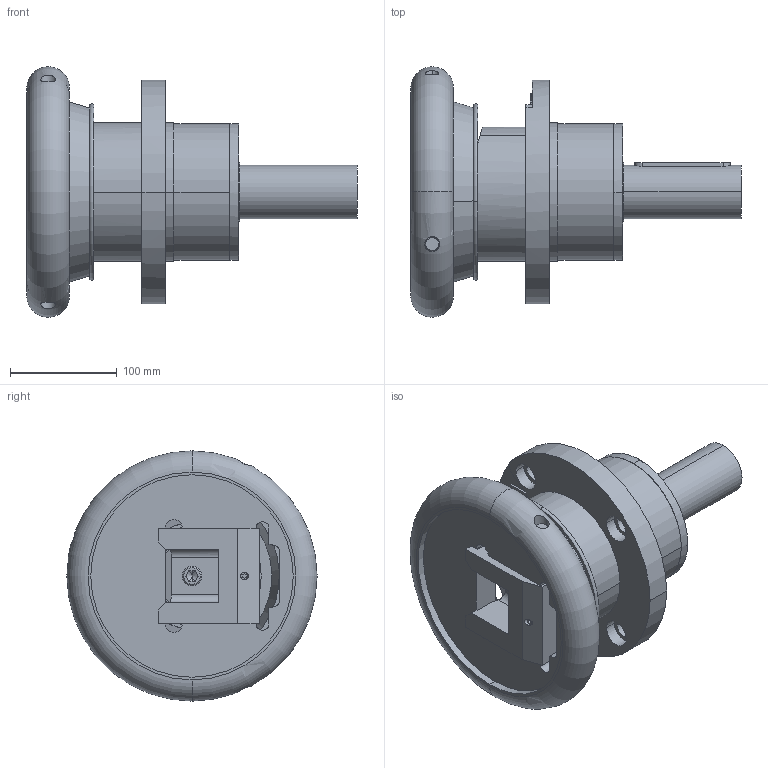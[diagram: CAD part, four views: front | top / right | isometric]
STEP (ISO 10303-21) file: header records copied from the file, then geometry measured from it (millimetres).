
FILE_DESCRIPTION (( 'STEP AP203' ), '1' );
FILE_NAME ('²Õ¦X¥óFL.STEP', '2008-09-18T01:16:38', ( ' ' ), ( ' ' ), 'SwSTEP 2.0', 'SolidWorks 2008', '' );
FILE_SCHEMA (( 'CONFIG_CONTROL_DESIGN' ));
Length unit declared in the file: millimetre
Products named in the file (14): 插銷_預設; 後蓋軸FL50_預設; Basic Internal Retaining Ring_amR100_B27.7M - 3BM1-100; 鍵_預設; 組合件FL; 軸心5０W_預設; 501FL 50_預設; 50FL-3Ba_預設; Radial Ball Bearing_68_SKF6211_SKF - 6211 - 14,DE,AC,14_68; basic external retaining ring_am_B27.7M - 3AM1-55; Flat Head Screw_AMM10_B18.6.7M - M8 x 1.25 x 20 Type I Cross Recessed FHMS --20S; Socket Set Screw Flat Point_AMM10_B18.3.6M - M8 x 1.25 x 10 Hex Socket Flat Pt. SS --C; Socket Head Cap Screw_AM_B18.3.1M - 12 x 1.75 x 25 Hex SHCS -- 25NHX; 50DP_預設
Assembly tree (17 placements, depth 2):
  組合件FL
    Socket Head Cap Screw_AM_B18.3.1M - 12 x 1.75 x 25 Hex SHCS -- 25NHX
    Flat Head Screw_AMM10_B18.6.7M - M8 x 1.25 x 20 Type I Cross Recessed FHMS --20S  x4
    鍵_預設
    50FL-3Ba_預設
    Basic Internal Retaining Ring_amR100_B27.7M - 3BM1-100
    501FL 50_預設
    50DP_預設
    Radial Ball Bearing_68_SKF6211_SKF - 6211 - 14,DE,AC,14_68  x2
    插銷_預設
    Socket Set Screw Flat Point_AMM10_B18.3.6M - M8 x 1.25 x 10 Hex Socket Flat Pt. SS --C
    basic external retaining ring_am_B27.7M - 3AM1-55
    後蓋軸FL50_預設
    軸心5０W_預設
Bounding box: 310 x 234.93 x 234.99 mm (x, y, z)
Volume: 3412799.4 mm3; surface area: 548853.6 mm2
Topology: 17 solids, 17 shells, 1197 faces, 3380 edges, 2193 vertices
Faces by surface type: cylinder 317, plane 292, cone 246, sphere 226, torus 116
Entity records: 30649 total; most frequent: CARTESIAN_POINT 10994, DIRECTION 3848, ORIENTED_EDGE 3844, EDGE_CURVE 1922, AXIS2_PLACEMENT_3D 1601, VERTEX_POINT 1260, CIRCLE 882, EDGE_LOOP 810
